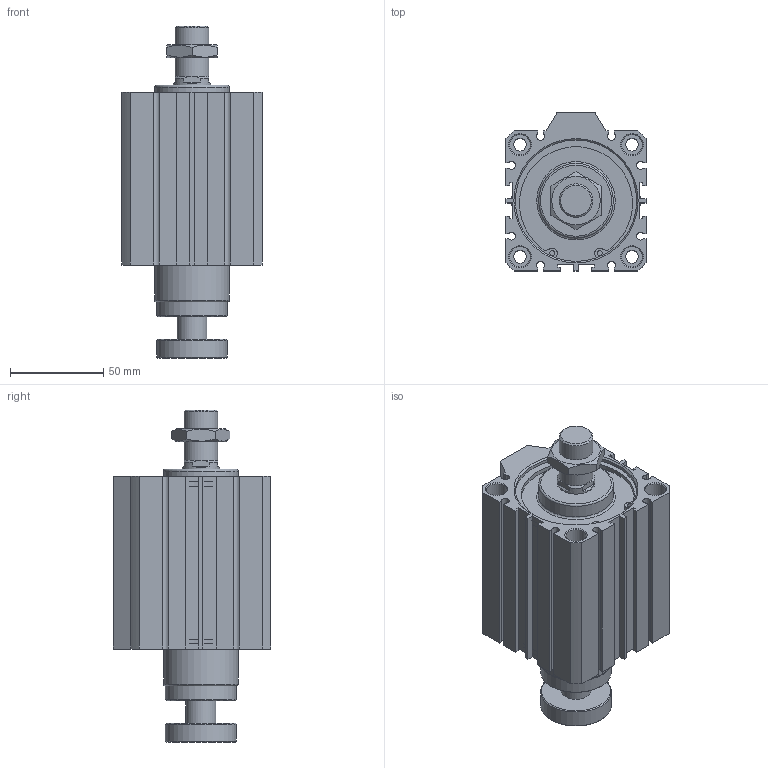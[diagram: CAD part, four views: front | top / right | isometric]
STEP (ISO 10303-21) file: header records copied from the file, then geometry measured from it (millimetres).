
FILE_DESCRIPTION((''),'2;1');
FILE_NAME('I:\3D電子目錄\氣缸\JDAR\JDAR-B\JDAR63-B\JDAR63x60-B.stp','2007-05-05T08:30:26',('662F206'),(''),'Autodesk Inventor 11','Autodesk Inventor 11','');
FILE_SCHEMA(('AUTOMOTIVE_DESIGN { 1 0 10303 214 1 1 1 1 }'));
Length unit declared in the file: millimetre
Products named in the file (3): JDAR63-B; R 形環 65
Assembly tree (3 placements, depth 2):
  JDAR63-B
    JDAR63-B
    R 形環 65  x2
Bounding box: 75 x 84.5 x 177.8 mm (x, y, z)
Volume: 536435.3 mm3; surface area: 80373.4 mm2
Topology: 3 solids, 3 shells, 201 faces, 487 edges, 317 vertices
Faces by surface type: plane 117, cylinder 56, cone 24, bspline 2, torus 2
Full cylindrical faces by diameter (mm): 2.7 x4, 3 x2, 6.8 x4, 11 x8, 16 x1, 18 x2, 20 x1, 38 x2, 40 x2, 65 x4, 68 x2
Entity records: 5349 total; most frequent: CARTESIAN_POINT 1011, DIRECTION 894, ORIENTED_EDGE 794, EDGE_CURVE 397, AXIS2_PLACEMENT_3D 324, VERTEX_POINT 291, EDGE_LOOP 280, VECTOR 246
